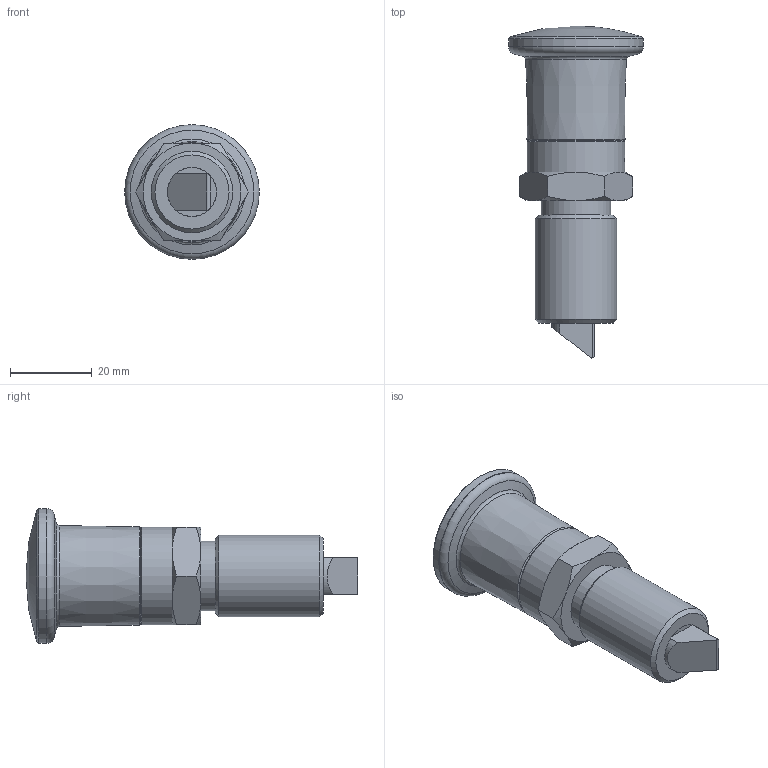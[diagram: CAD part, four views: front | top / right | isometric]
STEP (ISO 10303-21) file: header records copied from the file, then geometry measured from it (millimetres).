
FILE_DESCRIPTION(/* description */ ('STEP AP214'),/* implementation_level */ '2;1');
FILE_NAME(/* name */ 'Indexing Plunger_ Stainless Steel GN 824-9-8_5-C-NI (deactivated)',/* time_stamp */ '2024-11-28T10:49:49+01:00',/* author */ ('License CC BY-ND 4.0'),/* organization */ ('CADENAS'),/* preprocessor_version */ 'ST-DEVELOPER v19.3',/* originating_system */ 'PARTsolutions',/* authorisation */ ' ');
FILE_SCHEMA (('AUTOMOTIVE_DESIGN {1 0 10303 214 3 1 1}'));
Length unit declared in the file: millimetre
Products named in the file (3): Indexing Plunger, Stainless Steel GN 824-9-8,5-C-NI (deactivated); Indexing Plunger, Stainless Steel GN 824-9-8,5-C-NI (closed)-1; Indexing Plunger, Stainless Steel GN 824-9-8,5-C-NI (closed)-2
Assembly tree (2 placements, depth 2):
  Indexing Plunger, Stainless Steel GN 824-9-8,5-C-NI (deactivated)
    Indexing Plunger, Stainless Steel GN 824-9-8,5-C-NI (closed)-1
    Indexing Plunger, Stainless Steel GN 824-9-8,5-C-NI (closed)-2
Bounding box: 33 x 81.3 x 33 mm (x, y, z)
Volume: 28533.9 mm3; surface area: 14447 mm2
Topology: 2 solids, 2 shells, 83 faces, 179 edges, 111 vertices
Faces by surface type: plane 40, cone 21, cylinder 18, torus 3, sphere 1
Full cylindrical faces by diameter (mm): 3.3 x1, 9 x2, 12 x2, 13 x2, 14 x1, 17 x1, 20 x1, 24 x1, 32.98 x1, 33 x1
Entity records: 2751 total; most frequent: CARTESIAN_POINT 456, DIRECTION 348, ORIENTED_EDGE 294, AXIS2_PLACEMENT_3D 149, EDGE_CURVE 147, EDGE_LOOP 122, FACE_BOUND 122, VERTEX_POINT 105
